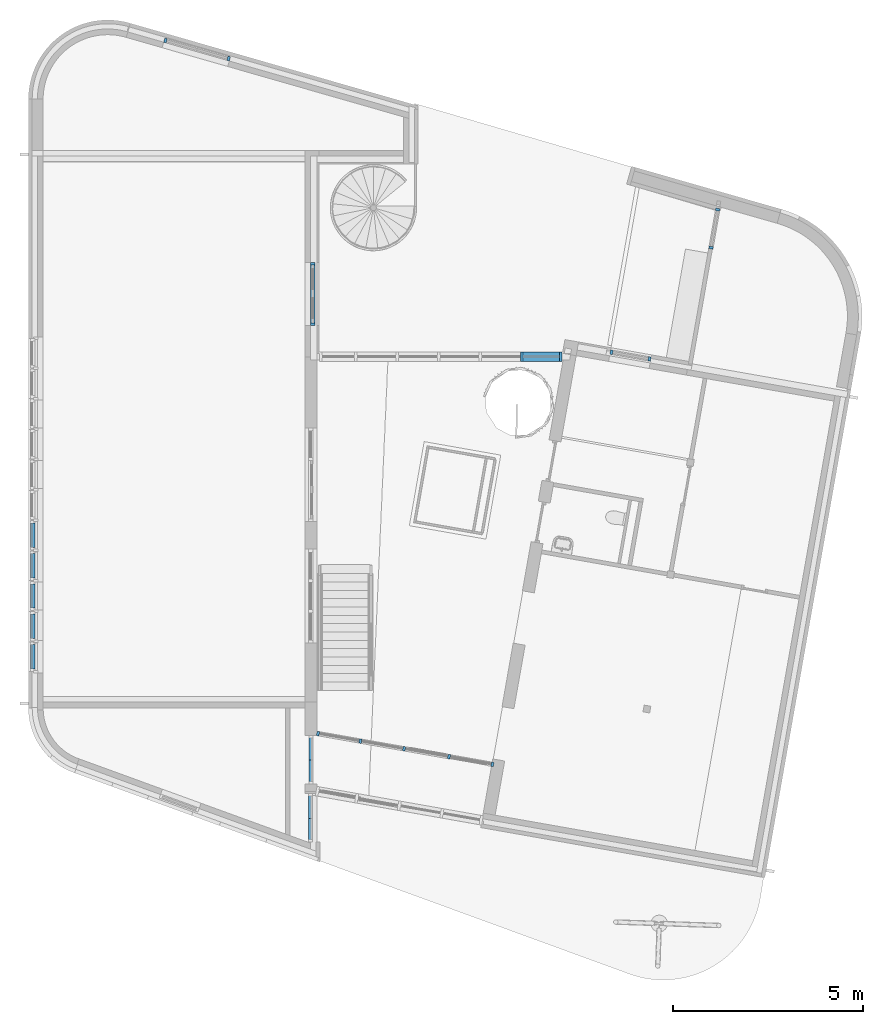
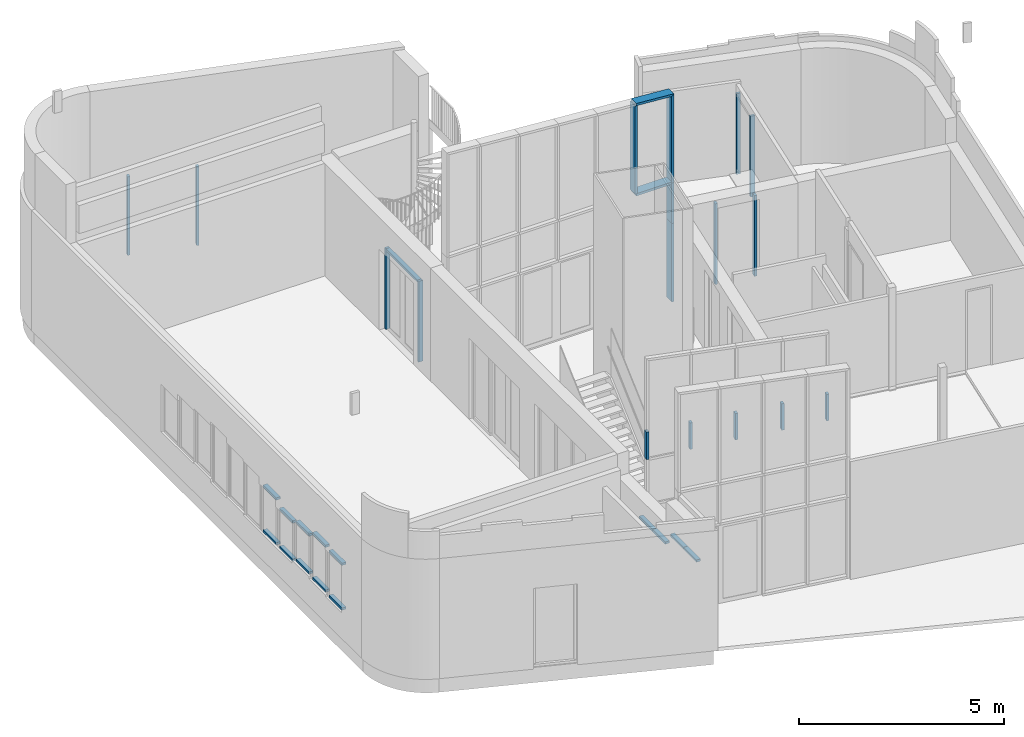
# One storey, part 6 of 21: 34 members, 13 elements without a shape of their own.
"""IFC2X3 building model written with IfcOpenShell, lengths in millimetres."""

from ifc_helpers import new_model, entity, si_unit, converted_unit, derived_unit, direction, frame, frame_2d, origin, origin_2d_with_axis, place, context, subcontext, project, spatial, polyline, rectangle, extrude, clip, halfspace, bounded_halfspace, source, transform, mapped, material, type_object, type_shapes, element, aggregate, save


model = new_model("IFC2X3")

# Units and contexts
model_context = context("Model", 3, precision=0.01, world=origin(), true_north=direction((6.12303176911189e-17, 1.0)))
body_context = subcontext(model_context, "Body", "Model", "MODEL_VIEW")
ifc_project = project(units=[si_unit("LENGTHUNIT", "METRE", prefix="MILLI"), si_unit("AREAUNIT", "SQUARE_METRE"), si_unit("VOLUMEUNIT", "CUBIC_METRE"), converted_unit("PLANEANGLEUNIT", "DEGREE", entity("IfcRatioMeasure", 0.0174532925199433), si_unit("PLANEANGLEUNIT", "RADIAN"), dimensions=[0, 0, 0, 0, 0, 0, 0]), si_unit("MASSUNIT", "GRAM", prefix="KILO"), derived_unit("MASSDENSITYUNIT", [(si_unit("MASSUNIT", "GRAM", prefix="KILO"), 1), (si_unit("LENGTHUNIT", "METRE"), -3)]), si_unit("TIMEUNIT", "SECOND"), si_unit("FREQUENCYUNIT", "HERTZ"), si_unit("THERMODYNAMICTEMPERATUREUNIT", "DEGREE_CELSIUS"), derived_unit("THERMALTRANSMITTANCEUNIT", [(si_unit("MASSUNIT", "GRAM", prefix="KILO"), 1), (si_unit("THERMODYNAMICTEMPERATUREUNIT", "KELVIN"), -1), (si_unit("TIMEUNIT", "SECOND"), -3)]), derived_unit("VOLUMETRICFLOWRATEUNIT", [(si_unit("LENGTHUNIT", "METRE"), 3), (si_unit("TIMEUNIT", "SECOND"), -1)]), si_unit("ELECTRICCURRENTUNIT", "AMPERE"), si_unit("ELECTRICVOLTAGEUNIT", "VOLT"), si_unit("POWERUNIT", "WATT"), si_unit("FORCEUNIT", "NEWTON", prefix="KILO"), si_unit("ILLUMINANCEUNIT", "LUX"), si_unit("LUMINOUSFLUXUNIT", "LUMEN"), si_unit("LUMINOUSINTENSITYUNIT", "CANDELA"), derived_unit("USERDEFINED", [(si_unit("MASSUNIT", "GRAM", prefix="KILO"), -1), (si_unit("LENGTHUNIT", "METRE"), -2), (si_unit("TIMEUNIT", "SECOND"), 3), (si_unit("LUMINOUSFLUXUNIT", "LUMEN"), 1)]), derived_unit("LINEARVELOCITYUNIT", [(si_unit("LENGTHUNIT", "METRE"), 1), (si_unit("TIMEUNIT", "SECOND"), -1)]), si_unit("PRESSUREUNIT", "PASCAL"), derived_unit("USERDEFINED", [(si_unit("LENGTHUNIT", "METRE"), -2), (si_unit("MASSUNIT", "GRAM", prefix="KILO"), 1), (si_unit("TIMEUNIT", "SECOND"), -2)])], contexts=[model_context])

# Site, building, storey
site_placement = place(None, origin())
site = spatial("IfcSite", under=ifc_project, at=site_placement, Name="<Kadaster Gemeente>;<Kadaster nummer>;<Kadaster sectie>", CompositionType="ELEMENT")
building_placement = place(site_placement, origin())
building = spatial("IfcBuilding", under=site, at=building_placement, Name="JRCZ Middelburg", CompositionType="ELEMENT")
storey_placement = place(building_placement, origin())
storey = spatial("IfcBuildingStorey", under=building, at=storey_placement, Name="00 begane grond", CompositionType="ELEMENT", Elevation=0.0)

# Curtain wall, members
curtain_wall_type_1 = type_object("IfcCurtainWallType", Name="Curtain Wall:vliesgevel B", PredefinedType="NOTDEFINED")
curtain_wall_1_placement = place(storey_placement, origin())
curtain_wall_1 = element("IfcCurtainWall", 1, at=curtain_wall_1_placement, inside=storey, type_object=curtain_wall_type_1, Name="Curtain Wall:vliesgevel B", ObjectType="Curtain Wall:vliesgevel B")
ifc_material_1 = material(Name="RBM_i2_binnenkozijn")
member_type_1 = type_object("IfcMemberType", Name="32_CWM_067x114", PredefinedType="MEMBER")
shared_shape_1 = source(origin(), body_context, "Body", "SweptSolid", [
    extrude(rectangle(XDim=113.999999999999, YDim=67.0, at=origin_2d_with_axis()), frame((-33.5, 0.0, -820.0), z_axis=(0.0, 0.0, 1.0), x_axis=(0.0, -1.0, 0.0)), (0.0, 0.0, 1.0), 820.0),
])
type_shapes(member_type_1, [shared_shape_1])
member_1_placement = place(storey_placement, frame((17362.2500000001, 9178.37735087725, 4422.33333333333), z_axis=(0.0, 0.0, 1.0), x_axis=(-0.984807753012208, 0.173648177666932, 0.0)))
member_1 = element("IfcMember", 2, at=member_1_placement, type_object=member_type_1, material=ifc_material_1, Name="Rectangular Mullion:32_CWM_067x114", ObjectType="Rectangular Mullion:32_CWM_067x114", context=body_context, shape_type="MappedRepresentation", body=[
    mapped(shared_shape_1, transform((0.0, 0.0, 0.0), scale=1.0)),
])
member_type_2 = type_object("IfcMemberType", Name="32_CWM_067x114", PredefinedType="MEMBER")
shared_shape_2 = source(origin(), body_context, "Body", "SweptSolid", [
    extrude(rectangle(XDim=113.999999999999, YDim=67.0, at=origin_2d_with_axis()), frame((-33.5, 0.0, -786.5), z_axis=(0.0, 0.0, 1.0), x_axis=(0.0, -1.0, 0.0)), (0.0, 0.0, 1.0), 786.5),
])
type_shapes(member_type_2, [shared_shape_2])
member_2_placement = place(storey_placement, frame((22027.0026406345, 8355.85560200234, 3635.83333333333), z_axis=(0.0, 0.0, -1.0), x_axis=(0.984807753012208, -0.173648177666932, 0.0)))
member_2 = element("IfcMember", 3, at=member_2_placement, type_object=member_type_2, material=ifc_material_1, Name="Rectangular Mullion:32_CWM_067x114", ObjectType="Rectangular Mullion:32_CWM_067x114", context=body_context, shape_type="MappedRepresentation", body=[
    mapped(shared_shape_2, transform((0.0, 0.0, 0.0), scale=1.0)),
])
member_type_3 = type_object("IfcMemberType", Name="32_CWM_067x114", PredefinedType="MEMBER")
shared_shape_3 = source(origin(), body_context, "Body", "SweptSolid", [
    extrude(rectangle(XDim=113.999999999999, YDim=67.0, at=origin_2d_with_axis()), frame((0.0, 0.0, -786.5), z_axis=(0.0, 0.0, 1.0), x_axis=(0.0, -1.0, 0.0)), (0.0, 0.0, 1.0), 786.5),
])
type_shapes(member_type_3, [shared_shape_3])
member_3_placement = place(storey_placement, frame((19664.9206469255, 8772.35438813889, 3635.83333333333), z_axis=(0.0, 0.0, -1.0), x_axis=(0.984807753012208, -0.173648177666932, 0.0)))
member_3 = element("IfcMember", 4, at=member_3_placement, type_object=member_type_3, material=ifc_material_1, Name="Rectangular Mullion:32_CWM_067x114", ObjectType="Rectangular Mullion:32_CWM_067x114", context=body_context, shape_type="MappedRepresentation", body=[
    mapped(shared_shape_3, transform((0.0, 0.0, 0.0), scale=1.0)),
])
member_4_placement = place(storey_placement, frame((18510.4603234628, 8975.91689132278, 3635.83333333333), z_axis=(0.0, 0.0, -1.0), x_axis=(0.984807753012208, -0.173648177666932, 0.0)))
member_4 = element("IfcMember", 5, at=member_4_placement, type_object=member_type_3, material=ifc_material_1, Name="Rectangular Mullion:32_CWM_067x114", ObjectType="Rectangular Mullion:32_CWM_067x114", context=body_context, shape_type="MappedRepresentation", body=[
    mapped(shared_shape_3, transform((0.0, 0.0, 0.0), scale=1.0)),
])
member_5_placement = place(storey_placement, frame((20849.0391680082, 8563.56234451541, 3635.83333333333), z_axis=(0.0, 0.0, -1.0), x_axis=(0.984807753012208, -0.173648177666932, 0.0)))
member_5 = element("IfcMember", 6, at=member_5_placement, type_object=member_type_3, material=ifc_material_1, Name="Rectangular Mullion:32_CWM_067x114", ObjectType="Rectangular Mullion:32_CWM_067x114", context=body_context, shape_type="MappedRepresentation", body=[
    mapped(shared_shape_3, transform((0.0, 0.0, 0.0), scale=1.0)),
])
aggregate(curtain_wall_1, [member_1, member_2, member_3, member_4, member_5])

curtain_wall_type_2 = type_object("IfcCurtainWallType", Name="Curtain Wall:NLRS_31_CW_Ontwerpkozijn 067x114", PredefinedType="NOTDEFINED")
curtain_wall_2_placement = place(storey_placement, origin())
curtain_wall_2 = element("IfcCurtainWall", 7, at=curtain_wall_2_placement, inside=storey, type_object=curtain_wall_type_2, Name="Curtain Wall:NLRS_31_CW_Ontwerpkozijn 067x114", ObjectType="Curtain Wall:NLRS_31_CW_Ontwerpkozijn 067x114")
ifc_material_2 = material(Name="RBM_a_kozijn")
member_type_4 = type_object("IfcMemberType", Name="31_CWM_067x114", PredefinedType="MEMBER")
shared_shape_4 = source(origin(), body_context, "Body", "SweptSolid", [
    extrude(rectangle(XDim=113.999999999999, YDim=67.0, at=origin_2d_with_axis()), frame((-33.5, -57.0, -1533.0), z_axis=(0.0, 0.0, 1.0), x_axis=(0.0, -1.0, 0.0)), (0.0, 0.0, 1.0), 1533.0),
])
type_shapes(member_type_4, [shared_shape_4])
member_6_placement = place(storey_placement, frame((17200.0, 19997.0106983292, 2400.0), z_axis=(0.0, -1.0, 0.0), x_axis=(0.0, 0.0, 1.0)))
member_6 = element("IfcMember", 8, at=member_6_placement, type_object=member_type_4, material=ifc_material_2, Name="Rectangular Mullion:31_CWM_067x114", ObjectType="Rectangular Mullion:31_CWM_067x114", context=body_context, shape_type="MappedRepresentation", body=[
    mapped(shared_shape_4, transform((0.0, 0.0, 0.0), scale=1.0)),
])
member_type_5 = type_object("IfcMemberType", Name="31_CWM_067x114", PredefinedType="MEMBER")
shared_shape_5 = source(origin(), body_context, "Body", "SweptSolid", [
    extrude(rectangle(XDim=113.999999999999, YDim=67.0, at=frame_2d((1.06581410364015e-14, 0.0), x_axis=(1.0, 0.0))), frame((-33.5, -57.0, -2400.0), z_axis=(0.0, 0.0, 1.0), x_axis=(0.0, -1.0, 0.0)), (0.0, 0.0, 1.0), 2400.0),
])
type_shapes(member_type_5, [shared_shape_5])
member_7_placement = place(storey_placement, frame((17200.0, 19930.0106983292, 0.0), z_axis=(0.0, 0.0, -1.0), x_axis=(0.0, -1.0, 0.0)))
member_7 = element("IfcMember", 9, at=member_7_placement, type_object=member_type_5, material=ifc_material_2, Name="Rectangular Mullion:31_CWM_067x114", ObjectType="Rectangular Mullion:31_CWM_067x114", context=body_context, shape_type="MappedRepresentation", body=[
    mapped(shared_shape_5, transform((0.0, 0.0, 0.0), scale=1.0)),
])
member_type_6 = type_object("IfcMemberType", Name="31_CWM_067x114", PredefinedType="MEMBER")
shared_shape_6 = source(origin(), body_context, "Body", "SweptSolid", [
    extrude(rectangle(XDim=113.999999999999, YDim=67.0, at=frame_2d((1.06581410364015e-14, 0.0), x_axis=(1.0, 0.0))), frame((-33.5, -57.0, -2400.0), z_axis=(0.0, 0.0, 1.0), x_axis=(0.0, -1.0, 0.0)), (0.0, 0.0, 1.0), 2400.0),
])
type_shapes(member_type_6, [shared_shape_6])
member_8_placement = place(storey_placement, frame((17200.0, 21597.0106983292, 2400.0), z_axis=(0.0, 0.0, 1.0), x_axis=(0.0, 1.0, 0.0)))
member_8 = element("IfcMember", 10, at=member_8_placement, type_object=member_type_6, material=ifc_material_2, Name="Rectangular Mullion:31_CWM_067x114", ObjectType="Rectangular Mullion:31_CWM_067x114", context=body_context, shape_type="MappedRepresentation", body=[
    mapped(shared_shape_6, transform((0.0, 0.0, 0.0), scale=1.0)),
])
aggregate(curtain_wall_2, [member_6, member_7, member_8])

# Curtain wall, member
curtain_wall_type_3 = type_object("IfcCurtainWallType", Name="Curtain Wall:NLRS_32_CW_067x114", PredefinedType="NOTDEFINED")
curtain_wall_3_placement = place(storey_placement, origin())
curtain_wall_3 = element("IfcCurtainWall", 11, at=curtain_wall_3_placement, inside=storey, type_object=curtain_wall_type_3, Name="Curtain Wall:NLRS_32_CW_067x114", ObjectType="Curtain Wall:NLRS_32_CW_067x114")
member_type_7 = type_object("IfcMemberType", Name="32_CWM_067x114", PredefinedType="MEMBER")
shared_shape_7 = source(origin(), body_context, "Body", "SweptSolid", [
    extrude(rectangle(XDim=113.999999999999, YDim=67.0, at=origin_2d_with_axis()), frame((-33.5, 0.0, -655.450461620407), z_axis=(0.0, 0.0, 1.0), x_axis=(0.0, -1.0, 0.0)), (0.0, 0.0, 1.0), 655.450461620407),
])
type_shapes(member_type_7, [shared_shape_7])
member_9_placement = place(storey_placement, frame((17209.2500000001, 9128.74078602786, 2000.0), z_axis=(0.0, 1.0, 0.0), x_axis=(0.0, 0.0, 1.0)))
member_9 = element("IfcMember", 12, at=member_9_placement, type_object=member_type_7, material=ifc_material_1, Name="Rectangular Mullion:32_CWM_067x114", ObjectType="Rectangular Mullion:32_CWM_067x114", context=body_context, shape_type="MappedRepresentation", body=[
    mapped(shared_shape_7, transform((0.0, 0.0, 0.0), scale=1.0)),
])

curtain_wall_type_4 = type_object("IfcCurtainWallType", Name="Curtain Wall:NLRS_32_CW_067x114", PredefinedType="NOTDEFINED")
curtain_wall_4_placement = place(storey_placement, origin())
curtain_wall_4 = element("IfcCurtainWall", 13, at=curtain_wall_4_placement, inside=storey, type_object=curtain_wall_type_4, Name="Curtain Wall:NLRS_32_CW_067x114", ObjectType="Curtain Wall:NLRS_32_CW_067x114")
member_10_placement = place(storey_placement, frame((17200.0, 7591.96216345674, 2400.0), z_axis=(0.0, 1.0, 0.0), x_axis=(0.0, 0.0, 1.0)))
member_10 = element("IfcMember", 14, at=member_10_placement, type_object=member_type_7, material=ifc_material_1, Name="Rectangular Mullion:32_CWM_067x114", ObjectType="Rectangular Mullion:32_CWM_067x114", context=body_context, shape_type="MappedRepresentation", body=[
    mapped(shared_shape_7, transform((0.0, 0.0, 0.0), scale=1.0)),
])

# Member
member_type_8 = type_object("IfcMemberType", Name="32_CWM_067x114", PredefinedType="MEMBER")
shared_shape_8 = source(origin(), body_context, "Body", "SweptSolid", [
    extrude(rectangle(XDim=113.999999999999, YDim=67.0, at=origin_2d_with_axis()), frame((-33.5, 0.0, -624.549538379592), z_axis=(0.0, 0.0, 1.0), x_axis=(0.0, -1.0, 0.0)), (0.0, 0.0, 1.0), 624.549538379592),
])
type_shapes(member_type_8, [shared_shape_8])
member_11_placement = place(storey_placement, frame((17209.2500000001, 8473.29032440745, 2000.0), z_axis=(0.0, 1.0, 0.0), x_axis=(0.0, 0.0, 1.0)))
member_11 = element("IfcMember", 15, at=member_11_placement, type_object=member_type_8, material=ifc_material_1, Name="Rectangular Mullion:32_CWM_067x114", ObjectType="Rectangular Mullion:32_CWM_067x114", context=body_context, shape_type="MappedRepresentation", body=[
    mapped(shared_shape_8, transform((0.0, 0.0, 0.0), scale=1.0)),
])

aggregate(curtain_wall_3, [member_9, member_11])

member_12_placement = place(storey_placement, frame((17200.0, 6936.51170183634, 2400.0), z_axis=(0.0, 1.0, 0.0), x_axis=(0.0, 0.0, 1.0)))
member_12 = element("IfcMember", 16, at=member_12_placement, type_object=member_type_8, material=ifc_material_1, Name="Rectangular Mullion:32_CWM_067x114", ObjectType="Rectangular Mullion:32_CWM_067x114", context=body_context, shape_type="MappedRepresentation", body=[
    mapped(shared_shape_8, transform((0.0, 0.0, 0.0), scale=1.0)),
])

aggregate(curtain_wall_4, [member_10, member_12])

# Curtain wall, members
curtain_wall_5_placement = place(storey_placement, origin())
curtain_wall_5 = element("IfcCurtainWall", 17, at=curtain_wall_5_placement, inside=storey, type_object=curtain_wall_type_2, Name="Curtain Wall:NLRS_31_CW_Ontwerpkozijn 067x114", ObjectType="Curtain Wall:NLRS_31_CW_Ontwerpkozijn 067x114")
member_type_9 = type_object("IfcMemberType", Name="31_CWM_067x114", PredefinedType="MEMBER")
shared_shape_9 = source(origin(), body_context, "Body", "SweptSolid", [
    extrude(rectangle(XDim=113.999999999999, YDim=67.0, at=frame_2d((1.06581410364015e-14, 0.0), x_axis=(1.0, 0.0))), frame((-33.5, -57.0, -2333.0), z_axis=(0.0, 0.0, 1.0), x_axis=(0.0, -1.0, 0.0)), (0.0, 0.0, 1.0), 2333.0),
])
type_shapes(member_type_9, [shared_shape_9])
member_13_placement = place(storey_placement, frame((15057.0718816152, 26902.0542574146, 0.0), z_axis=(0.0, 0.0, -1.0), x_axis=(0.961261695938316, -0.27563735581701, 0.0)))
member_13 = element("IfcMember", 18, at=member_13_placement, type_object=member_type_9, material=ifc_material_2, Name="Rectangular Mullion:31_CWM_067x114", ObjectType="Rectangular Mullion:31_CWM_067x114", context=body_context, shape_type="MappedRepresentation", body=[
    mapped(shared_shape_9, transform((0.0, 0.0, 0.0), scale=1.0)),
])
member_type_10 = type_object("IfcMemberType", Name="31_CWM_067x114", PredefinedType="MEMBER")
shared_shape_10 = source(origin(), body_context, "Body", "SweptSolid", [
    extrude(rectangle(XDim=113.999999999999, YDim=67.0, at=origin_2d_with_axis()), frame((-33.5, -57.0, -2333.0), z_axis=(0.0, 0.0, 1.0), x_axis=(0.0, -1.0, 0.0)), (0.0, 0.0, 1.0), 2333.0),
])
type_shapes(member_type_10, [shared_shape_10])
member_14_placement = place(storey_placement, frame((13326.8008289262, 27398.2014978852, 2333.0), z_axis=(0.0, 0.0, 1.0), x_axis=(-0.961261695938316, 0.27563735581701, 0.0)))
member_14 = element("IfcMember", 19, at=member_14_placement, type_object=member_type_10, material=ifc_material_2, Name="Rectangular Mullion:31_CWM_067x114", ObjectType="Rectangular Mullion:31_CWM_067x114", context=body_context, shape_type="MappedRepresentation", body=[
    mapped(shared_shape_10, transform((0.0, 0.0, 0.0), scale=1.0)),
])
aggregate(curtain_wall_5, [member_13, member_14])

# Curtain wall, member
curtain_wall_type_5 = type_object("IfcCurtainWallType", Name="Curtain Wall:NLRS_31_CW_Ontwerpkozijn 067x114 2", PredefinedType="NOTDEFINED")
curtain_wall_6_placement = place(storey_placement, origin())
curtain_wall_6 = element("IfcCurtainWall", 20, at=curtain_wall_6_placement, inside=storey, type_object=curtain_wall_type_5, Name="Curtain Wall:NLRS_31_CW_Ontwerpkozijn 067x114 2", ObjectType="Curtain Wall:NLRS_31_CW_Ontwerpkozijn 067x114 2")
member_type_11 = type_object("IfcMemberType", Name="31_CWM_067x114", PredefinedType="MEMBER")
shared_shape_11 = source(origin(), body_context, "Body", "SweptSolid", [
    extrude(rectangle(XDim=113.999999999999, YDim=67.0, at=origin_2d_with_axis()), frame((-33.5, 57.0, -641.0), z_axis=(0.0, 0.0, 1.0), x_axis=(0.0, -1.0, 0.0)), (0.0, 0.0, 1.0), 640.999999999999),
])
type_shapes(member_type_11, [shared_shape_11])
member_15_placement = place(storey_placement, frame((9931.0, 13279.4999999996, 1900.0), z_axis=(0.0, -1.0, 0.0), x_axis=(0.0, 0.0, 1.0)))
member_15 = element("IfcMember", 21, at=member_15_placement, type_object=member_type_11, material=ifc_material_2, Name="Rectangular Mullion:31_CWM_067x114", ObjectType="Rectangular Mullion:31_CWM_067x114", context=body_context, shape_type="MappedRepresentation", body=[
    mapped(shared_shape_11, transform((0.0, 0.0, 0.0), scale=1.0)),
])

curtain_wall_7_placement = place(storey_placement, origin())
curtain_wall_7 = element("IfcCurtainWall", 22, at=curtain_wall_7_placement, inside=storey, type_object=curtain_wall_type_5, Name="Curtain Wall:NLRS_31_CW_Ontwerpkozijn 067x114 2", ObjectType="Curtain Wall:NLRS_31_CW_Ontwerpkozijn 067x114 2")
member_16_placement = place(storey_placement, frame((9931.0, 10879.4999999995, 2100.0), z_axis=(0.0, -1.0, 0.0), x_axis=(0.0, 0.0, 1.0)))
member_16 = element("IfcMember", 23, at=member_16_placement, type_object=member_type_11, material=ifc_material_2, Name="Rectangular Mullion:31_CWM_067x114", ObjectType="Rectangular Mullion:31_CWM_067x114", context=body_context, shape_type="MappedRepresentation", body=[
    mapped(shared_shape_11, transform((0.0, 0.0, 0.0), scale=1.0)),
])

curtain_wall_8_placement = place(storey_placement, origin())
curtain_wall_8 = element("IfcCurtainWall", 24, at=curtain_wall_8_placement, inside=storey, type_object=curtain_wall_type_5, Name="Curtain Wall:NLRS_31_CW_Ontwerpkozijn 067x114 2", ObjectType="Curtain Wall:NLRS_31_CW_Ontwerpkozijn 067x114 2")
member_17_placement = place(storey_placement, frame((9931.0, 11679.4999999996, 2150.0), z_axis=(0.0, -1.0, 0.0), x_axis=(0.0, 0.0, 1.0)))
member_17 = element("IfcMember", 25, at=member_17_placement, type_object=member_type_11, material=ifc_material_2, Name="Rectangular Mullion:31_CWM_067x114", ObjectType="Rectangular Mullion:31_CWM_067x114", context=body_context, shape_type="MappedRepresentation", body=[
    mapped(shared_shape_11, transform((0.0, 0.0, 0.0), scale=1.0)),
])

curtain_wall_9_placement = place(storey_placement, origin())
curtain_wall_9 = element("IfcCurtainWall", 26, at=curtain_wall_9_placement, inside=storey, type_object=curtain_wall_type_5, Name="Curtain Wall:NLRS_31_CW_Ontwerpkozijn 067x114 2", ObjectType="Curtain Wall:NLRS_31_CW_Ontwerpkozijn 067x114 2")
member_18_placement = place(storey_placement, frame((9931.0, 12479.4999999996, 2000.0), z_axis=(0.0, -1.0, 0.0), x_axis=(0.0, 0.0, 1.0)))
member_18 = element("IfcMember", 27, at=member_18_placement, type_object=member_type_11, material=ifc_material_2, Name="Rectangular Mullion:31_CWM_067x114", ObjectType="Rectangular Mullion:31_CWM_067x114", context=body_context, shape_type="MappedRepresentation", body=[
    mapped(shared_shape_11, transform((0.0, 0.0, 0.0), scale=1.0)),
])

curtain_wall_10_placement = place(storey_placement, origin())
curtain_wall_10 = element("IfcCurtainWall", 28, at=curtain_wall_10_placement, inside=storey, type_object=curtain_wall_type_5, Name="Curtain Wall:NLRS_31_CW_Ontwerpkozijn 067x114 2", ObjectType="Curtain Wall:NLRS_31_CW_Ontwerpkozijn 067x114 2")
member_19_placement = place(storey_placement, frame((9931.0, 14079.4999999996, 2100.0), z_axis=(0.0, -1.0, 0.0), x_axis=(0.0, 0.0, 1.0)))
member_19 = element("IfcMember", 29, at=member_19_placement, type_object=member_type_11, material=ifc_material_2, Name="Rectangular Mullion:31_CWM_067x114", ObjectType="Rectangular Mullion:31_CWM_067x114", context=body_context, shape_type="MappedRepresentation", body=[
    mapped(shared_shape_11, transform((0.0, 0.0, 0.0), scale=1.0)),
])

# Member
member_type_12 = type_object("IfcMemberType", Name="31_CWM_067x114", PredefinedType="MEMBER")
shared_shape_12 = source(origin(), body_context, "Body", "SweptSolid", [
    extrude(rectangle(XDim=113.999999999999, YDim=67.0, at=origin_2d_with_axis()), frame((-33.5, 57.0, -641.0), z_axis=(0.0, 0.0, 1.0), x_axis=(0.0, -1.0, 0.0)), (0.0, 0.0, 1.0), 640.999999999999),
])
type_shapes(member_type_12, [shared_shape_12])
member_20_placement = place(storey_placement, frame((9931.0, 13920.4999999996, 700.0), z_axis=(0.0, 1.0, 0.0), x_axis=(0.0, 0.0, -1.0)))
member_20 = element("IfcMember", 30, at=member_20_placement, type_object=member_type_12, material=ifc_material_2, Name="Rectangular Mullion:31_CWM_067x114", ObjectType="Rectangular Mullion:31_CWM_067x114", context=body_context, shape_type="MappedRepresentation", body=[
    mapped(shared_shape_12, transform((0.0, 0.0, 0.0), scale=1.0)),
])

aggregate(curtain_wall_6, [member_15, member_20])

member_21_placement = place(storey_placement, frame((9931.0, 11520.4999999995, 700.0), z_axis=(0.0, 1.0, 0.0), x_axis=(0.0, 0.0, -1.0)))
member_21 = element("IfcMember", 31, at=member_21_placement, type_object=member_type_12, material=ifc_material_2, Name="Rectangular Mullion:31_CWM_067x114", ObjectType="Rectangular Mullion:31_CWM_067x114", context=body_context, shape_type="MappedRepresentation", body=[
    mapped(shared_shape_12, transform((0.0, 0.0, 0.0), scale=1.0)),
])

aggregate(curtain_wall_7, [member_16, member_21])

member_22_placement = place(storey_placement, frame((9931.0, 12320.4999999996, 750.0), z_axis=(0.0, 1.0, 0.0), x_axis=(0.0, 0.0, -1.0)))
member_22 = element("IfcMember", 32, at=member_22_placement, type_object=member_type_12, material=ifc_material_2, Name="Rectangular Mullion:31_CWM_067x114", ObjectType="Rectangular Mullion:31_CWM_067x114", context=body_context, shape_type="MappedRepresentation", body=[
    mapped(shared_shape_12, transform((0.0, 0.0, 0.0), scale=1.0)),
])

aggregate(curtain_wall_8, [member_17, member_22])

member_23_placement = place(storey_placement, frame((9931.0, 13120.4999999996, 800.0), z_axis=(0.0, 1.0, 0.0), x_axis=(0.0, 0.0, -1.0)))
member_23 = element("IfcMember", 33, at=member_23_placement, type_object=member_type_12, material=ifc_material_2, Name="Rectangular Mullion:31_CWM_067x114", ObjectType="Rectangular Mullion:31_CWM_067x114", context=body_context, shape_type="MappedRepresentation", body=[
    mapped(shared_shape_12, transform((0.0, 0.0, 0.0), scale=1.0)),
])

aggregate(curtain_wall_9, [member_18, member_23])

member_24_placement = place(storey_placement, frame((9931.0, 14720.4999999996, 700.0), z_axis=(0.0, 1.0, 0.0), x_axis=(0.0, 0.0, -1.0)))
member_24 = element("IfcMember", 34, at=member_24_placement, type_object=member_type_12, material=ifc_material_2, Name="Rectangular Mullion:31_CWM_067x114", ObjectType="Rectangular Mullion:31_CWM_067x114", context=body_context, shape_type="MappedRepresentation", body=[
    mapped(shared_shape_12, transform((0.0, 0.0, 0.0), scale=1.0)),
])

aggregate(curtain_wall_10, [member_19, member_24])

# Curtain wall, members
curtain_wall_type_6 = type_object("IfcCurtainWallType", Name="Curtain Wall:Vliesgevel C", PredefinedType="NOTDEFINED")
curtain_wall_11_placement = place(storey_placement, origin())
curtain_wall_11 = element("IfcCurtainWall", 35, at=curtain_wall_11_placement, inside=storey, type_object=curtain_wall_type_6, Name="Curtain Wall:Vliesgevel C", ObjectType="Curtain Wall:Vliesgevel C")
ifc_material_3 = material(Name="RBM_a_kozijn licht")
member_type_13 = type_object("IfcMemberType", Name="31_CWM_067x114 vliesgevel", PredefinedType="MEMBER")
shared_shape_13 = source(origin(), body_context, "Body", "SweptSolid", [
    extrude(rectangle(XDim=250.0, YDim=67.0, at=origin_2d_with_axis()), frame((-33.5, -57.0, -2333.0), z_axis=(0.0, 0.0, 1.0), x_axis=(0.0, -1.0, 0.0)), (0.0, 0.0, 1.0), 2333.0),
])
type_shapes(member_type_13, [shared_shape_13])
member_25_placement = place(storey_placement, frame((23824.9418785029, 19046.62338787, 67.0), z_axis=(0.0, 0.0, -1.0), x_axis=(1.0, 0.0, 0.0)))
member_25 = element("IfcMember", 36, at=member_25_placement, type_object=member_type_13, material=ifc_material_3, Name="Rectangular Mullion:31_CWM_067x114 vliesgevel", ObjectType="Rectangular Mullion:31_CWM_067x114 vliesgevel", context=body_context, shape_type="MappedRepresentation", body=[
    mapped(shared_shape_13, transform((0.0, 0.0, 0.0), scale=1.0)),
])
member_type_14 = type_object("IfcMemberType", Name="31_CWM_067x114 vliesgevel", PredefinedType="MEMBER")
shared_shape_14 = source(origin(), body_context, "Body", "SweptSolid", [
    extrude(rectangle(XDim=250.0, YDim=67.0, at=origin_2d_with_axis()), frame((-33.5, -57.0, -1200.0), z_axis=(0.0, 0.0, 1.0), x_axis=(0.0, -1.0, 0.0)), (0.0, 0.0, 1.0), 1200.0),
])
type_shapes(member_type_14, [shared_shape_14])
member_26_placement = place(storey_placement, frame((23824.9418785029, 19046.62338787, 2400.0), z_axis=(0.0, 0.0, -1.0), x_axis=(1.0, 0.0, 0.0)))
member_26 = element("IfcMember", 37, at=member_26_placement, type_object=member_type_14, material=ifc_material_3, Name="Rectangular Mullion:31_CWM_067x114 vliesgevel", ObjectType="Rectangular Mullion:31_CWM_067x114 vliesgevel", context=body_context, shape_type="MappedRepresentation", body=[
    mapped(shared_shape_14, transform((0.0, 0.0, 0.0), scale=1.0)),
])
member_type_15 = type_object("IfcMemberType", Name="31_CWM_067x114 vliesgevel", PredefinedType="MEMBER")
shared_shape_15 = source(origin(), body_context, "Body", "SweptSolid", [
    extrude(rectangle(XDim=250.0, YDim=67.0, at=origin_2d_with_axis()), frame((0.0, -57.0, -992.603849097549), z_axis=(0.0, 0.0, 1.0), x_axis=(0.0, -1.0, 0.0)), (0.0, 0.0, 1.0), 992.603849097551),
])
type_shapes(member_type_15, [shared_shape_15])
member_27_placement = place(storey_placement, frame((23757.9418785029, 19046.62338787, 3600.0), z_axis=(1.0, 0.0, 0.0), x_axis=(0.0, 0.0, 1.0)))
member_27 = element("IfcMember", 38, at=member_27_placement, type_object=member_type_15, material=ifc_material_3, Name="Rectangular Mullion:31_CWM_067x114 vliesgevel", ObjectType="Rectangular Mullion:31_CWM_067x114 vliesgevel", context=body_context, shape_type="MappedRepresentation", body=[
    mapped(shared_shape_15, transform((0.0, 0.0, 0.0), scale=1.0)),
])
member_type_16 = type_object("IfcMemberType", Name="31_CWM_067x114 vliesgevel", PredefinedType="MEMBER")
shared_shape_16 = source(origin(), body_context, "Body", "Clipping", [
    clip(extrude(rectangle(XDim=250.0, YDim=67.0, at=origin_2d_with_axis()), frame((-33.5, -57.0, -2635.22294626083), z_axis=(0.0, 0.0, 1.0), x_axis=(0.0, -1.0, 0.0)), (0.0, 0.0, 1.0), 2635.22294626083), halfspace(frame((0.0, -304.8, -2635.22294626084), z_axis=(-0.680565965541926, 0.0, -0.732686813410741), x_axis=(-0.732686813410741, 0.0, 0.680565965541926)), False)),
])
type_shapes(member_type_16, [shared_shape_16])
member_28_placement = place(storey_placement, frame((23824.9418785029, 19046.62338787, 3600.0), z_axis=(0.0, 0.0, -1.0), x_axis=(1.0, 0.0, 0.0)))
member_28 = element("IfcMember", 39, at=member_28_placement, type_object=member_type_16, material=ifc_material_3, Name="Rectangular Mullion:31_CWM_067x114 vliesgevel", ObjectType="Rectangular Mullion:31_CWM_067x114 vliesgevel", context=body_context, shape_type="MappedRepresentation", body=[
    mapped(shared_shape_16, transform((0.0, 0.0, 0.0), scale=1.0)),
])
member_type_17 = type_object("IfcMemberType", Name="31_CWM_067x114 vliesgevel", PredefinedType="MEMBER")
shared_shape_17 = source(origin(), body_context, "Body", "Clipping", [
    clip(clip(extrude(rectangle(XDim=250.0, YDim=67.0, at=origin_2d_with_axis()), frame((0.0, -57.0, -2615.27772532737), z_axis=(0.0, 0.0, 1.0), x_axis=(0.0, -1.0, 0.0)), (0.0, 0.0, 1.0), 2615.27772532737), bounded_halfspace(frame((-4.93521551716, 68.0, -2613.16791373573), z_axis=(0.0736599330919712, 0.0, -0.997283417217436), x_axis=(-0.997283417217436, 0.0, -0.0736599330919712)), False, frame((0.0, -57.0, -2615.27772532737), z_axis=(0.0, 0.0, 1.0), x_axis=(0.0, -1.0, 0.0)), polyline([(125.0, -4.93521551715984), (125.0, -33.5), (-125.0, -33.5), (-125.0, -4.93521551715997), (125.0, -4.93521551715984)]))), bounded_halfspace(frame((1054.66863358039, 68.0, -2534.90495730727), z_axis=(0.0736599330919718, 0.0, -0.997283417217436), x_axis=(-0.997283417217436, 0.0, -0.0736599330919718)), False, frame((0.0, -57.0, -2615.27772532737), z_axis=(0.0, 0.0, 1.0), x_axis=(0.0, -1.0, 0.0)), polyline([(-125.0, 33.5), (125.0, 33.5), (125.0, -4.93521551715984), (-125.0, -4.93521551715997), (-125.0, 33.5)]))),
])
type_shapes(member_type_17, [shared_shape_17])
member_29_placement = place(storey_placement, frame((22765.3380294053, 19046.62338787, 3633.5), z_axis=(0.0, 0.0, -1.0), x_axis=(1.0, 0.0, 0.0)))
member_29 = element("IfcMember", 40, at=member_29_placement, type_object=member_type_17, material=ifc_material_3, Name="Rectangular Mullion:31_CWM_067x114 vliesgevel", ObjectType="Rectangular Mullion:31_CWM_067x114 vliesgevel", context=body_context, shape_type="MappedRepresentation", body=[
    mapped(shared_shape_17, transform((0.0, 0.0, 0.0), scale=1.0)),
])
member_type_18 = type_object("IfcMemberType", Name="31_CWM_067x114 vliesgevel", PredefinedType="MEMBER")
shared_shape_18 = source(origin(), body_context, "Body", "Clipping", [
    clip(extrude(rectangle(XDim=250.0, YDim=67.0, at=origin_2d_with_axis()), frame((-33.5, -57.0, -1062.49019165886), z_axis=(0.0, 0.0, 1.0), x_axis=(0.0, -1.0, 0.0)), (0.0, 0.0, 1.0), 1062.49019165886), halfspace(frame((0.0, -304.8, 0.0), z_axis=(-0.680565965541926, 0.0, 0.732686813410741), x_axis=(-0.732686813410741, 0.0, -0.680565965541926)), False)),
])
type_shapes(member_type_18, [shared_shape_18])
member_30_placement = place(storey_placement, frame((23824.9418785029, 19046.62338787, 6235.22294626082), z_axis=(0.997283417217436, 0.0, -0.0736599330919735), x_axis=(0.0736599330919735, 0.0, 0.997283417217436)))
member_30 = element("IfcMember", 41, at=member_30_placement, type_object=member_type_18, material=ifc_material_3, Name="Rectangular Mullion:31_CWM_067x114 vliesgevel", ObjectType="Rectangular Mullion:31_CWM_067x114 vliesgevel", context=body_context, shape_type="MappedRepresentation", body=[
    mapped(shared_shape_18, transform((0.0, 0.0, 0.0), scale=1.0)),
])
aggregate(curtain_wall_11, [member_25, member_26, member_28, member_27, member_29, member_30])

# Curtain wall, member
curtain_wall_12_placement = place(storey_placement, origin())
curtain_wall_12 = element("IfcCurtainWall", 42, at=curtain_wall_12_placement, inside=storey, type_object=curtain_wall_type_2, Name="Curtain Wall:NLRS_31_CW_Ontwerpkozijn 067x114", ObjectType="Curtain Wall:NLRS_31_CW_Ontwerpkozijn 067x114")
member_type_19 = type_object("IfcMemberType", Name="31_CWM_067x114", PredefinedType="MEMBER")
shared_shape_19 = source(origin(), body_context, "Body", "SweptSolid", [
    extrude(rectangle(XDim=113.999999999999, YDim=67.0, at=origin_2d_with_axis()), frame((-33.5, 57.0, -2400.0), z_axis=(0.0, 0.0, 1.0), x_axis=(0.0, -1.0, 0.0)), (0.0, 0.0, 1.0), 2400.0),
])
type_shapes(member_type_19, [shared_shape_19])
member_31_placement = place(storey_placement, frame((25089.8875728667, 19175.3638568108, 0.0), z_axis=(0.0, 0.0, -1.0), x_axis=(-0.984807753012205, 0.173648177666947, 0.0)))
member_31 = element("IfcMember", 43, at=member_31_placement, type_object=member_type_19, material=ifc_material_2, Name="Rectangular Mullion:31_CWM_067x114", ObjectType="Rectangular Mullion:31_CWM_067x114", context=body_context, shape_type="MappedRepresentation", body=[
    mapped(shared_shape_19, transform((0.0, 0.0, 0.0), scale=1.0)),
])

curtain_wall_13_placement = place(storey_placement, origin())
curtain_wall_13 = element("IfcCurtainWall", 44, at=curtain_wall_13_placement, inside=storey, type_object=curtain_wall_type_2, Name="Curtain Wall:NLRS_31_CW_Ontwerpkozijn 067x114", ObjectType="Curtain Wall:NLRS_31_CW_Ontwerpkozijn 067x114")
member_32_placement = place(storey_placement, frame((27806.1716918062, 21939.3783508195, 0.0), z_axis=(0.0, 0.0, -1.0), x_axis=(-0.17364817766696, -0.984807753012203, 0.0)))
member_32 = element("IfcMember", 45, at=member_32_placement, type_object=member_type_19, material=ifc_material_2, Name="Rectangular Mullion:31_CWM_067x114", ObjectType="Rectangular Mullion:31_CWM_067x114", context=body_context, shape_type="MappedRepresentation", body=[
    mapped(shared_shape_19, transform((0.0, 0.0, 0.0), scale=1.0)),
])

# Member
member_type_20 = type_object("IfcMemberType", Name="31_CWM_067x114", PredefinedType="MEMBER")
shared_shape_20 = source(origin(), body_context, "Body", "SweptSolid", [
    extrude(rectangle(XDim=113.999999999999, YDim=67.0, at=origin_2d_with_axis()), frame((-33.5, 57.0, -2400.0), z_axis=(0.0, 0.0, 1.0), x_axis=(0.0, -1.0, 0.0)), (0.0, 0.0, 1.0), 2400.0),
])
type_shapes(member_type_20, [shared_shape_20])
member_33_placement = place(storey_placement, frame((26157.419177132, 18987.1292322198, 2400.0), z_axis=(0.0, 0.0, 1.0), x_axis=(0.984807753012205, -0.173648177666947, 0.0)))
member_33 = element("IfcMember", 46, at=member_33_placement, type_object=member_type_20, material=ifc_material_2, Name="Rectangular Mullion:31_CWM_067x114", ObjectType="Rectangular Mullion:31_CWM_067x114", context=body_context, shape_type="MappedRepresentation", body=[
    mapped(shared_shape_20, transform((0.0, 0.0, 0.0), scale=1.0)),
])

aggregate(curtain_wall_12, [member_31, member_33])

member_34_placement = place(storey_placement, frame((27994.4063163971, 23006.9099550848, 2400.0), z_axis=(0.0, 0.0, 1.0), x_axis=(0.17364817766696, 0.984807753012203, 0.0)))
member_34 = element("IfcMember", 47, at=member_34_placement, type_object=member_type_20, material=ifc_material_2, Name="Rectangular Mullion:31_CWM_067x114", ObjectType="Rectangular Mullion:31_CWM_067x114", context=body_context, shape_type="MappedRepresentation", body=[
    mapped(shared_shape_20, transform((0.0, 0.0, 0.0), scale=1.0)),
])

aggregate(curtain_wall_13, [member_32, member_34])

save(model, "model.ifc")
